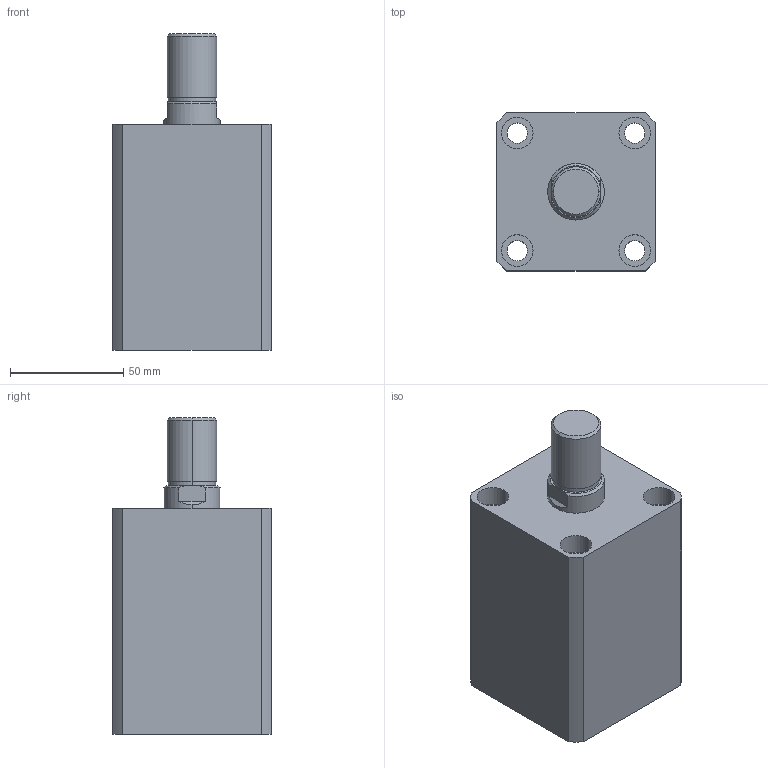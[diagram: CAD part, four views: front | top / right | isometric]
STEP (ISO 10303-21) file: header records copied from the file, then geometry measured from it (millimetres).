
FILE_DESCRIPTION (( 'STEP AP203' ), '1' );
FILE_NAME ('HTB-SDMB40-45W.STEP', '2019-10-09T01:54:19', ( '微软用户' ), ( '微软中国' ), 'SwSTEP 2.0', 'SolidWorks 2012', '' );
FILE_SCHEMA (( 'CONFIG_CONTROL_DESIGN' ));
Length unit declared in the file: millimetre
Products named in the file (3): HTB-SDMB40-45掛极; HTB-SDMB40-45W; HTB-SDMB40-45W活塞杆
Assembly tree (2 placements, depth 2):
  HTB-SDMB40-45W
    HTB-SDMB40-45掛极
    HTB-SDMB40-45W活塞杆
Bounding box: 70 x 70 x 140 mm (x, y, z)
Volume: 435236.3 mm3; surface area: 73879.4 mm2
Topology: 2 solids, 2 shells, 141 faces, 337 edges, 222 vertices
Faces by surface type: plane 67, cylinder 48, bspline 16, torus 6, cone 4
Entity records: 5180 total; most frequent: CARTESIAN_POINT 1597, ORIENTED_EDGE 674, DIRECTION 669, EDGE_CURVE 337, AXIS2_PLACEMENT_3D 242, VERTEX_POINT 222, VECTOR 185, LINE 185
